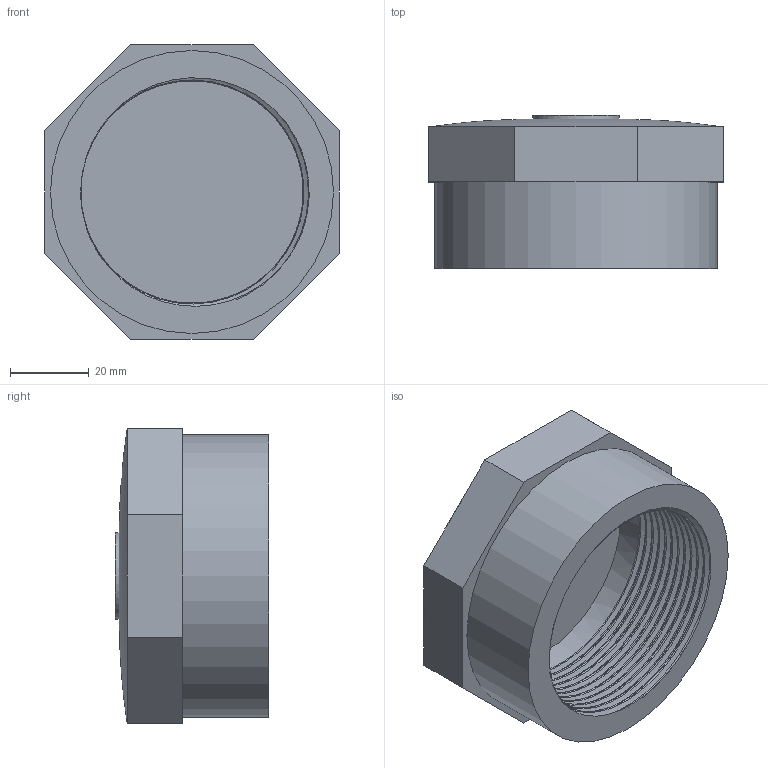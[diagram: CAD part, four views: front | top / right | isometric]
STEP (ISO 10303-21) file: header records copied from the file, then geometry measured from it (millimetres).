
FILE_DESCRIPTION(/* description */ ('PVC calotta filettata BSP'),/* implementation_level */ '2;1');
FILE_NAME(/* name */ 'C:\Users\POLYPIPE\Desktop\DATASET INVENTOR\LIBRERIA EFFAST\RACCORDI 3DxWEB\RER\3D_RERCAE\3D_RERCAE063G.stp',/* time_stamp */ '2018-01-19T15:57:41+01:00',/* author */ ('POLYPIPE'),/* organization */ ('Polypipe Italia s.r.l.'),/* preprocessor_version */ 'ST-DEVELOPER v16.1',/* originating_system */ 'Autodesk Inventor 2016',/* authorisation */ '');
FILE_SCHEMA (('CONFIG_CONTROL_DESIGN'));
Length unit declared in the file: millimetre
Products named in the file (1): 3D_RERCAE
Bounding box: 75 x 39 x 75 mm (x, y, z)
Volume: 79102.9 mm3; surface area: 26593.2 mm2
Topology: 1 solids, 1 shells, 30 faces, 68 edges, 42 vertices
Faces by surface type: plane 21, bspline 6, cylinder 3
Full cylindrical faces by diameter (mm): 22 x1, 56.656 x1, 72 x1
Entity records: 4927 total; most frequent: CARTESIAN_POINT 4278, ORIENTED_EDGE 128, DIRECTION 119, EDGE_CURVE 64, AXIS2_PLACEMENT_3D 42, VERTEX_POINT 41, LINE 35, VECTOR 35
